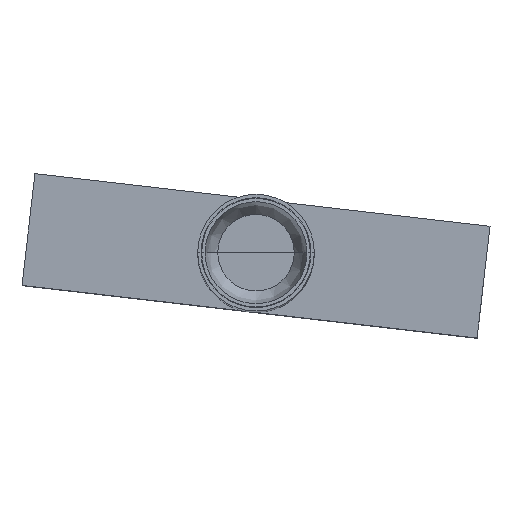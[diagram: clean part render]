
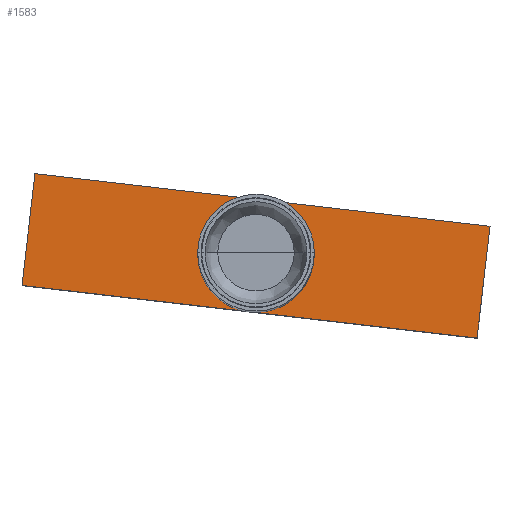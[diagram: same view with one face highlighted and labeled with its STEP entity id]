
A CAD part, top view. The second image highlights one B-rep face of the part: STEP entity #1583.
In plain terms, the highlighted planar face has unit normal (0, 0, 1).
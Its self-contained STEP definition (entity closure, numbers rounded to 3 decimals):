
#89=PLANE('',#1749);
#173=FACE_OUTER_BOUND('',#291,.T.);
#291=EDGE_LOOP('',(#1288,#1289,#1290,#1291));
#424=LINE('',#2642,#546);
#428=LINE('',#2650,#550);
#431=LINE('',#2656,#553);
#434=LINE('',#2661,#556);
#546=VECTOR('',#2109,304.8);
#550=VECTOR('',#2115,304.8);
#553=VECTOR('',#2120,304.8);
#556=VECTOR('',#2125,304.8);
#768=VERTEX_POINT('',#2640);
#769=VERTEX_POINT('',#2641);
#772=VERTEX_POINT('',#2649);
#774=VERTEX_POINT('',#2655);
#940=EDGE_CURVE('',#768,#769,#424,.T.);
#944=EDGE_CURVE('',#772,#768,#428,.T.);
#947=EDGE_CURVE('',#774,#772,#431,.T.);
#950=EDGE_CURVE('',#769,#774,#434,.T.);
#1288=ORIENTED_EDGE('',*,*,#950,.T.);
#1289=ORIENTED_EDGE('',*,*,#947,.T.);
#1290=ORIENTED_EDGE('',*,*,#944,.T.);
#1291=ORIENTED_EDGE('',*,*,#940,.T.);
#1583=ADVANCED_FACE('',(#173),#89,.T.);
#1749=AXIS2_PLACEMENT_3D('',#2664,#2129,#2130);
#2109=DIRECTION('',(0.,1.,0.));
#2115=DIRECTION('',(1.,0.,0.));
#2120=DIRECTION('',(0.,-1.,0.));
#2125=DIRECTION('',(-1.,0.,0.));
#2129=DIRECTION('center_axis',(0.,0.,1.));
#2130=DIRECTION('ref_axis',(-1.,0.,0.));
#2640=CARTESIAN_POINT('',(68.75,-16.9,55.));
#2641=CARTESIAN_POINT('',(68.75,16.9,55.));
#2642=CARTESIAN_POINT('',(68.75,-16.9,55.));
#2649=CARTESIAN_POINT('',(-68.75,-16.9,55.));
#2650=CARTESIAN_POINT('',(-68.75,-16.9,55.));
#2655=CARTESIAN_POINT('',(-68.75,16.9,55.));
#2656=CARTESIAN_POINT('',(-68.75,16.9,55.));
#2661=CARTESIAN_POINT('',(68.75,16.9,55.));
#2664=CARTESIAN_POINT('Origin',(-68.75,16.9,55.));
